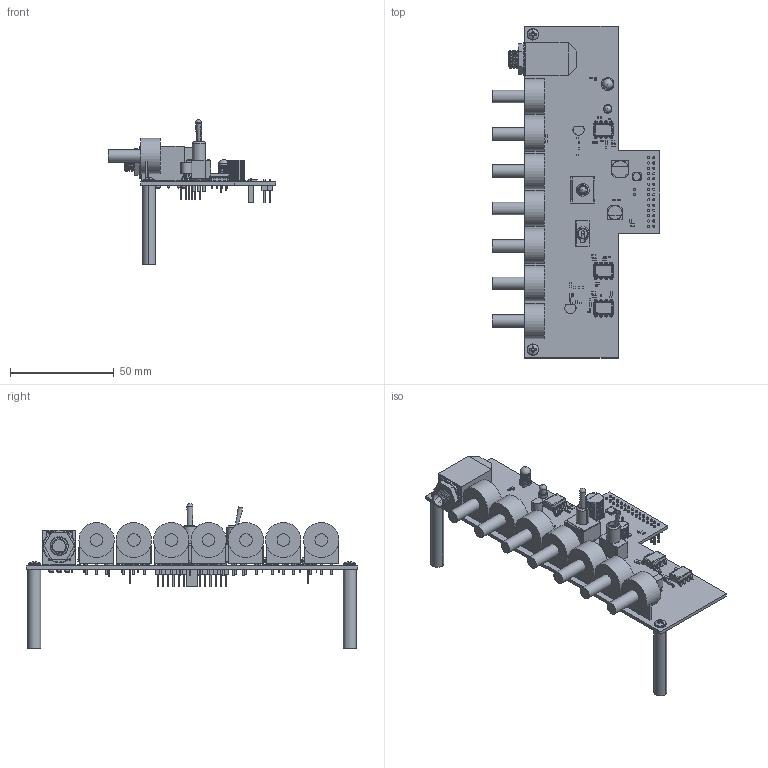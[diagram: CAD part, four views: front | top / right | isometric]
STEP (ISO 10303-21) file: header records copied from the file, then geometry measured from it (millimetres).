
FILE_DESCRIPTION(('Open CASCADE Model'),'2;1');
FILE_NAME('Open CASCADE Shape Model','2017-02-02T18:06:57',('Author'),( 'Open CASCADE'),'Open CASCADE STEP processor 6.8','Open CASCADE 6.8' ,'Unknown');
FILE_SCHEMA(('AUTOMOTIVE_DESIGN { 1 0 10303 214 1 1 1 1 }'));
Length unit declared in the file: millimetre
Products named in the file (175): PCB; Board; H2; PMSSS_440_0025_PH; H1; U3; P0008AakaN08E; BODY_N08E; LEAD_N08E; LD_LHALF_N08E; LD_RHALF_N08E; U2; U1; SW1; 100DPxT1B1M2xxx; 100DPxT1B1M2xxx_1; 100DPxT1B1M2xxx_2; 100DPxT1B1M2xxx_3; 100DPxT1B1M2xxx_4; 100DPxT1B1M2xxx_5; 100DPxT1B1M2xxx_6; 100DPxT1B1M2xxx_7; 100DPxT1B1M2xxx_8; 100DPxT1B1M2xxx_9; 100DPxT1B1M2xxx_10; 100DPxT1B1M2xxx_11; S1; 100SP1T1B1M2QEH; 100SP1T1B1M2QEH_1; 100SP1T1B1M2QEH_2; R36; 86392448; Extruded; 86392312; R35; 86391632; 86391768; R34; R33; 1838152992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
Assembly tree (459 placements, depth 5):
  PCB
    Board
    H2
      PMSSS_440_0025_PH
    H1
      PMSSS_440_0025_PH
    U3
      P0008AakaN08E
        BODY_N08E
        LEAD_N08E  x4
        LD_LHALF_N08E  x2
        LD_RHALF_N08E  x2
    U2
      P0008AakaN08E
        BODY_N08E
        LEAD_N08E  x4
        LD_LHALF_N08E  x2
        LD_RHALF_N08E  x2
    U1
      P0008AakaN08E
        BODY_N08E
        LEAD_N08E  x4
        LD_LHALF_N08E  x2
        LD_RHALF_N08E  x2
    SW1
      100DPxT1B1M2xxx
        100DPxT1B1M2xxx_1
        100DPxT1B1M2xxx_2
        100DPxT1B1M2xxx_3
        100DPxT1B1M2xxx_4
        100DPxT1B1M2xxx_5
          100DPxT1B1M2xxx_6
          100DPxT1B1M2xxx_7
          100DPxT1B1M2xxx_8
          100DPxT1B1M2xxx_9
          100DPxT1B1M2xxx_10
          100DPxT1B1M2xxx_11
    S1
      100SP1T1B1M2QEH
        100SP1T1B1M2QEH_1
        100SP1T1B1M2QEH_2
    R36
      86392448
        Extruded
      86392312  x2
        Extruded
    R35
      86391632  x2
        Extruded
      86391768
        Extruded
    R34
      86391632  x2
        Extruded
      86391768
        Extruded
    R33
      1838152992
        Cylinder
      1838153120
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Bounding box: 80.55 x 160 x 69.67 mm (x, y, z)
Volume: 46233.7 mm3; surface area: 43303.3 mm2
Topology: 359 solids, 360 shells, 3725 faces, 8709 edges, 5710 vertices
Faces by surface type: plane 3019, cylinder 571, sphere 55, cone 44, bspline 24, torus 11, revolution 1
Full cylindrical faces by diameter (mm): 0.75 x6, 0.9 x26, 1 x2, 1.016 x29, 1.02 x1, 1.2 x21, 1.6 x3, 1.85 x9, 2.337 x3, 2.45 x3, 3.175 x2, 3.3 x1, 3.556 x3, 3.75 x1, 4.1 x1, 4.2 x1, 4.5 x1, 6 x7, 6.375 x1, 8.856 x1, 15.621 x1, 17 x7
Entity records: 140361 total; most frequent: CARTESIAN_POINT 64850, DIRECTION 12794, LINE 7768, VECTOR 7768, ORIENTED_EDGE 7174, PCURVE 7174, DEFINITIONAL_REPRESENTATION 7174, EDGE_CURVE 3587
